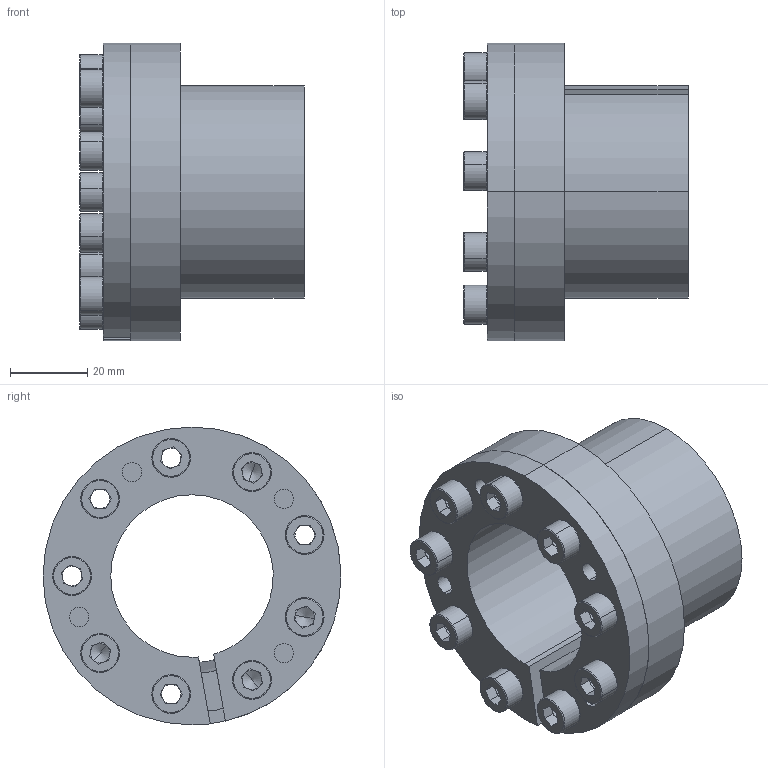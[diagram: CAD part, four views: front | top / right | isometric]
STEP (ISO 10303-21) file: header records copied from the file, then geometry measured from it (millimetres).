
FILE_DESCRIPTION (( 'STEP AP203' ), '1' );
FILE_NAME ('T-42-55.STEP', '2017-10-13T08:09:20', ( 'MYCOM' ), ( '' ), 'SwSTEP 2.0', 'SolidWorks 2015', '' );
FILE_SCHEMA (( 'CONFIG_CONTROL_DESIGN' ));
Length unit declared in the file: millimetre
Products named in the file (1): T-42-55
Bounding box: 58 x 77 x 77 mm (x, y, z)
Surface area: 49987.9 mm2 (no closed solid volume)
Topology: 0 solids, 12 shells, 248 faces, 656 edges, 406 vertices
Faces by surface type: plane 117, cylinder 81, torus 36, cone 14
Entity records: 7752 total; most frequent: DIRECTION 1458, CARTESIAN_POINT 1315, ORIENTED_EDGE 1190, EDGE_CURVE 648, AXIS2_PLACEMENT_3D 565, VERTEX_POINT 406, VECTOR 328, LINE 328
